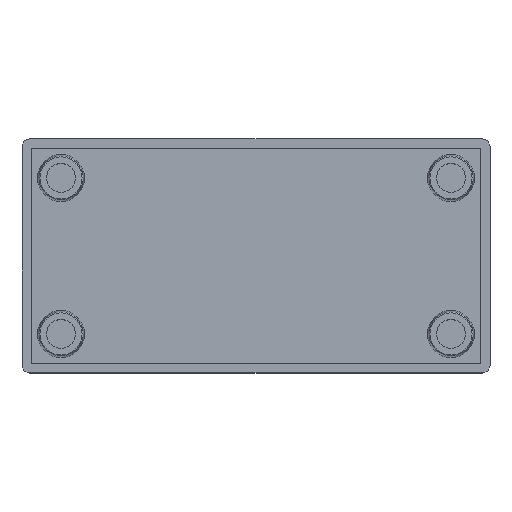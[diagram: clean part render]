
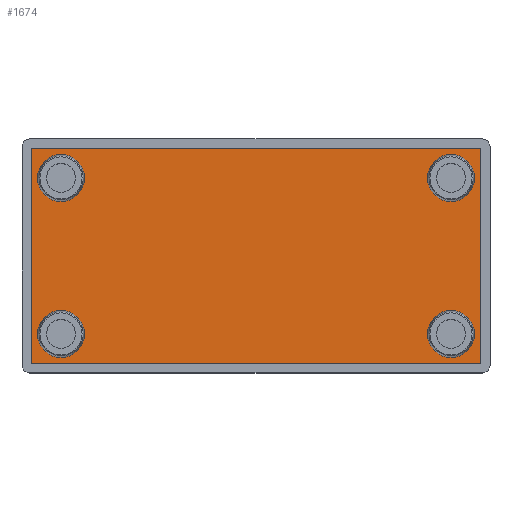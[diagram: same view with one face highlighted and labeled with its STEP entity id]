
A CAD part, top view. The second image highlights one B-rep face of the part: STEP entity #1674.
In plain terms, the highlighted planar face has unit normal (0, 0, 1).
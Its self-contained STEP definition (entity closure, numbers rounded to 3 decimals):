
#2 = AXIS2_PLACEMENT_3D ( 'NONE', #119, #289, #1613 ) ;
#39 = VERTEX_POINT ( 'NONE', #686 ) ;
#60 = EDGE_LOOP ( 'NONE', ( #821, #1252, #1727, #743 ) ) ;
#73 = AXIS2_PLACEMENT_3D ( 'NONE', #817, #1726, #412 ) ;
#75 = EDGE_LOOP ( 'NONE', ( #890, #296 ) ) ;
#88 = FACE_BOUND ( 'NONE', #75, .T. ) ;
#98 = CARTESIAN_POINT ( 'NONE',  ( 22., 10., 2. ) ) ;
#115 = CIRCLE ( 'NONE', #1482, 3. ) ;
#116 = CARTESIAN_POINT ( 'NONE',  ( 28.8, -13.8, 2. ) ) ;
#118 = CARTESIAN_POINT ( 'NONE',  ( -28.8, 13.8, 2. ) ) ;
#119 = CARTESIAN_POINT ( 'NONE',  ( -25., 10., 2. ) ) ;
#131 = VECTOR ( 'NONE', #1449, 1000. ) ;
#170 = VERTEX_POINT ( 'NONE', #98 ) ;
#171 = CARTESIAN_POINT ( 'NONE',  ( 28., 10., 2. ) ) ;
#175 = ORIENTED_EDGE ( 'NONE', *, *, #243, .F. ) ;
#184 = CARTESIAN_POINT ( 'NONE',  ( -28.8, -13.8, 2. ) ) ;
#196 = EDGE_LOOP ( 'NONE', ( #563, #1359 ) ) ;
#217 = VERTEX_POINT ( 'NONE', #282 ) ;
#243 = EDGE_CURVE ( 'NONE', #708, #339, #981, .T. ) ;
#246 = PLANE ( 'NONE',  #1728 ) ;
#282 = CARTESIAN_POINT ( 'NONE',  ( 28.8, 13.8, 2. ) ) ;
#285 = AXIS2_PLACEMENT_3D ( 'NONE', #1466, #936, #538 ) ;
#289 = DIRECTION ( 'NONE',  ( 0., 0., 1. ) ) ;
#296 = ORIENTED_EDGE ( 'NONE', *, *, #1031, .F. ) ;
#311 = CIRCLE ( 'NONE', #320, 3. ) ;
#320 = AXIS2_PLACEMENT_3D ( 'NONE', #773, #1684, #906 ) ;
#339 = VERTEX_POINT ( 'NONE', #841 ) ;
#346 = VERTEX_POINT ( 'NONE', #701 ) ;
#387 = CARTESIAN_POINT ( 'NONE',  ( 0., 0., 2. ) ) ;
#412 = DIRECTION ( 'NONE',  ( -1., 0., 0. ) ) ;
#434 = ORIENTED_EDGE ( 'NONE', *, *, #641, .F. ) ;
#463 = EDGE_CURVE ( 'NONE', #346, #1575, #1084, .T. ) ;
#477 = CARTESIAN_POINT ( 'NONE',  ( -28.8, 13.8, 2. ) ) ;
#480 = VECTOR ( 'NONE', #1700, 1000. ) ;
#517 = VECTOR ( 'NONE', #1093, 1000. ) ;
#522 = DIRECTION ( 'NONE',  ( -1., 0., 0. ) ) ;
#530 = EDGE_LOOP ( 'NONE', ( #1463, #1338 ) ) ;
#537 = DIRECTION ( 'NONE',  ( 0., 0., 1. ) ) ;
#538 = DIRECTION ( 'NONE',  ( -1., 0., 0. ) ) ;
#563 = ORIENTED_EDGE ( 'NONE', *, *, #1000, .F. ) ;
#618 = CARTESIAN_POINT ( 'NONE',  ( -28., -10., 2. ) ) ;
#641 = EDGE_CURVE ( 'NONE', #339, #708, #1573, .T. ) ;
#659 = CARTESIAN_POINT ( 'NONE',  ( -22., -10., 2. ) ) ;
#666 = VERTEX_POINT ( 'NONE', #659 ) ;
#676 = EDGE_CURVE ( 'NONE', #1323, #39, #1305, .T. ) ;
#685 = DIRECTION ( 'NONE',  ( 0., 0., 1. ) ) ;
#686 = CARTESIAN_POINT ( 'NONE',  ( -28.8, -13.8, 2. ) ) ;
#696 = DIRECTION ( 'NONE',  ( -1., 0., 0. ) ) ;
#701 = CARTESIAN_POINT ( 'NONE',  ( 22., -10., 2. ) ) ;
#708 = VERTEX_POINT ( 'NONE', #1136 ) ;
#717 = CIRCLE ( 'NONE', #1649, 3. ) ;
#734 = VECTOR ( 'NONE', #735, 1000. ) ;
#735 = DIRECTION ( 'NONE',  ( 1., 0., 0. ) ) ;
#737 = EDGE_CURVE ( 'NONE', #1171, #170, #1148, .T. ) ;
#743 = ORIENTED_EDGE ( 'NONE', *, *, #1246, .T. ) ;
#770 = FACE_OUTER_BOUND ( 'NONE', #60, .T. ) ;
#773 = CARTESIAN_POINT ( 'NONE',  ( -25., -10., 2. ) ) ;
#817 = CARTESIAN_POINT ( 'NONE',  ( -25., 10., 2. ) ) ;
#821 = ORIENTED_EDGE ( 'NONE', *, *, #960, .T. ) ;
#824 = CARTESIAN_POINT ( 'NONE',  ( 25., -10., 2. ) ) ;
#841 = CARTESIAN_POINT ( 'NONE',  ( -22., 10., 2. ) ) ;
#845 = LINE ( 'NONE', #116, #480 ) ;
#854 = LINE ( 'NONE', #118, #131 ) ;
#890 = ORIENTED_EDGE ( 'NONE', *, *, #1529, .F. ) ;
#894 = CARTESIAN_POINT ( 'NONE',  ( 28.8, -13.8, 2. ) ) ;
#906 = DIRECTION ( 'NONE',  ( -1., 0., 0. ) ) ;
#928 = DIRECTION ( 'NONE',  ( -1., 0., 0. ) ) ;
#936 = DIRECTION ( 'NONE',  ( 0., 0., 1. ) ) ;
#949 = EDGE_CURVE ( 'NONE', #1575, #346, #1577, .T. ) ;
#960 = EDGE_CURVE ( 'NONE', #1497, #217, #845, .T. ) ;
#981 = CIRCLE ( 'NONE', #73, 3. ) ;
#1000 = EDGE_CURVE ( 'NONE', #170, #1171, #115, .T. ) ;
#1031 = EDGE_CURVE ( 'NONE', #666, #1465, #717, .T. ) ;
#1084 = CIRCLE ( 'NONE', #1418, 3. ) ;
#1088 = LINE ( 'NONE', #184, #734 ) ;
#1092 = DIRECTION ( 'NONE',  ( 0., 0., 1. ) ) ;
#1093 = DIRECTION ( 'NONE',  ( 0., -1., 0. ) ) ;
#1123 = FACE_BOUND ( 'NONE', #1255, .T. ) ;
#1136 = CARTESIAN_POINT ( 'NONE',  ( -28., 10., 2. ) ) ;
#1148 = CIRCLE ( 'NONE', #285, 3. ) ;
#1167 = FACE_BOUND ( 'NONE', #530, .T. ) ;
#1171 = VERTEX_POINT ( 'NONE', #171 ) ;
#1204 = CARTESIAN_POINT ( 'NONE',  ( -28.8, -13.8, 2. ) ) ;
#1246 = EDGE_CURVE ( 'NONE', #39, #1497, #1088, .T. ) ;
#1252 = ORIENTED_EDGE ( 'NONE', *, *, #1642, .T. ) ;
#1255 = EDGE_LOOP ( 'NONE', ( #175, #434 ) ) ;
#1300 = AXIS2_PLACEMENT_3D ( 'NONE', #824, #1092, #928 ) ;
#1305 = LINE ( 'NONE', #1204, #517 ) ;
#1313 = DIRECTION ( 'NONE',  ( 0., 0., -1. ) ) ;
#1323 = VERTEX_POINT ( 'NONE', #477 ) ;
#1334 = CARTESIAN_POINT ( 'NONE',  ( 25., 10., 2. ) ) ;
#1338 = ORIENTED_EDGE ( 'NONE', *, *, #949, .F. ) ;
#1359 = ORIENTED_EDGE ( 'NONE', *, *, #737, .F. ) ;
#1418 = AXIS2_PLACEMENT_3D ( 'NONE', #1508, #1484, #696 ) ;
#1436 = CARTESIAN_POINT ( 'NONE',  ( 28., -10., 2. ) ) ;
#1449 = DIRECTION ( 'NONE',  ( -1., 0., 0. ) ) ;
#1463 = ORIENTED_EDGE ( 'NONE', *, *, #463, .F. ) ;
#1464 = DIRECTION ( 'NONE',  ( -1., 0., 0. ) ) ;
#1465 = VERTEX_POINT ( 'NONE', #618 ) ;
#1466 = CARTESIAN_POINT ( 'NONE',  ( 25., 10., 2. ) ) ;
#1469 = FACE_BOUND ( 'NONE', #196, .T. ) ;
#1481 = CARTESIAN_POINT ( 'NONE',  ( -25., -10., 2. ) ) ;
#1482 = AXIS2_PLACEMENT_3D ( 'NONE', #1334, #537, #1464 ) ;
#1484 = DIRECTION ( 'NONE',  ( 0., 0., 1. ) ) ;
#1497 = VERTEX_POINT ( 'NONE', #894 ) ;
#1508 = CARTESIAN_POINT ( 'NONE',  ( 25., -10., 2. ) ) ;
#1529 = EDGE_CURVE ( 'NONE', #1465, #666, #311, .T. ) ;
#1573 = CIRCLE ( 'NONE', #2, 3. ) ;
#1575 = VERTEX_POINT ( 'NONE', #1436 ) ;
#1577 = CIRCLE ( 'NONE', #1300, 3. ) ;
#1603 = DIRECTION ( 'NONE',  ( -1., 0., 0. ) ) ;
#1613 = DIRECTION ( 'NONE',  ( -1., 0., 0. ) ) ;
#1642 = EDGE_CURVE ( 'NONE', #217, #1323, #854, .T. ) ;
#1649 = AXIS2_PLACEMENT_3D ( 'NONE', #1481, #685, #1603 ) ;
#1674 = ADVANCED_FACE ( 'NONE', ( #1167, #1469, #88, #1123, #770 ), #246, .F. ) ;
#1684 = DIRECTION ( 'NONE',  ( 0., 0., 1. ) ) ;
#1700 = DIRECTION ( 'NONE',  ( 0., 1., 0. ) ) ;
#1726 = DIRECTION ( 'NONE',  ( 0., 0., 1. ) ) ;
#1727 = ORIENTED_EDGE ( 'NONE', *, *, #676, .T. ) ;
#1728 = AXIS2_PLACEMENT_3D ( 'NONE', #387, #1313, #522 ) ;
